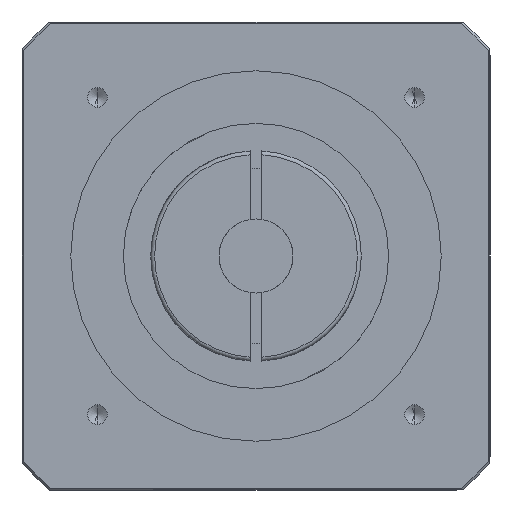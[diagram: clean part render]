
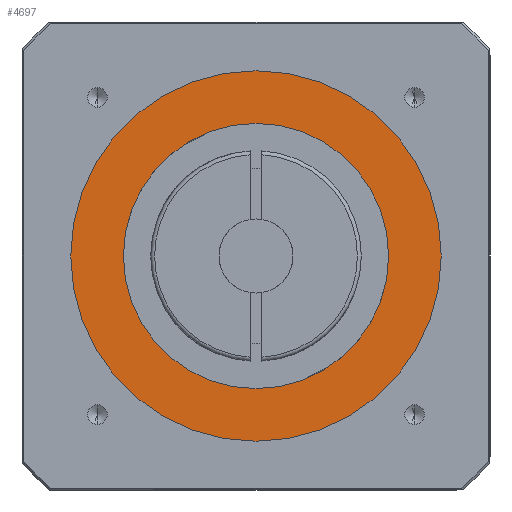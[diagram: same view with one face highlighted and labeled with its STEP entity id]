
A CAD part, front view. The second image highlights one B-rep face of the part: STEP entity #4697.
In plain terms, the highlighted planar face has unit normal (0, -1, 0).
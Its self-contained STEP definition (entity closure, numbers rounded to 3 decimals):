
#604 = EDGE_CURVE ( 'NONE', #2717, #2718, #5865, .T. ) ;
#644 = EDGE_CURVE ( 'NONE', #2763, #1800, #5913, .T. ) ;
#909 = CARTESIAN_POINT ( 'NONE',  ( 0., -71., 0. ) ) ;
#910 = DIRECTION ( 'NONE',  ( 0., 1., 0. ) ) ;
#911 = DIRECTION ( 'NONE',  ( 0., 0., -1. ) ) ;
#1119 = CARTESIAN_POINT ( 'NONE',  ( 0., -71., 0. ) ) ;
#1120 = DIRECTION ( 'NONE',  ( 0., -1., 0. ) ) ;
#1121 = DIRECTION ( 'NONE',  ( 0., 0., -1. ) ) ;
#1230 = DIRECTION ( 'NONE',  ( 0., 0., -1. ) ) ;
#1537 = CARTESIAN_POINT ( 'NONE',  ( 0., -71., 0. ) ) ;
#1538 = DIRECTION ( 'NONE',  ( 0., -1., 0. ) ) ;
#1539 = DIRECTION ( 'NONE',  ( 0., 0., -1. ) ) ;
#1800 = VERTEX_POINT ( 'NONE', #3383 ) ;
#2222 = ORIENTED_EDGE ( 'NONE', *, *, #604, .T. ) ;
#2224 = ORIENTED_EDGE ( 'NONE', *, *, #3010, .T. ) ;
#2225 = ORIENTED_EDGE ( 'NONE', *, *, #4362, .T. ) ;
#2227 = ORIENTED_EDGE ( 'NONE', *, *, #644, .T. ) ;
#2717 = VERTEX_POINT ( 'NONE', #3478 ) ;
#2718 = VERTEX_POINT ( 'NONE', #3479 ) ;
#2763 = VERTEX_POINT ( 'NONE', #3524 ) ;
#3010 = EDGE_CURVE ( 'NONE', #2718, #2717, #4815, .T. ) ;
#3097 = AXIS2_PLACEMENT_3D ( 'NONE', #909, #910, #911 ) ;
#3116 = AXIS2_PLACEMENT_3D ( 'NONE', #1119, #1120, #1121 ) ;
#3168 = AXIS2_PLACEMENT_3D ( 'NONE', #3893, #3894, #1230 ) ;
#3196 = AXIS2_PLACEMENT_3D ( 'NONE', #1537, #1538, #1539 ) ;
#3268 = AXIS2_PLACEMENT_3D ( 'NONE', #4124, #4129, #4130 ) ;
#3383 = CARTESIAN_POINT ( 'NONE',  ( 0., -71., 47.5 ) ) ;
#3478 = CARTESIAN_POINT ( 'NONE',  ( 0., -71., 34. ) ) ;
#3479 = CARTESIAN_POINT ( 'NONE',  ( 0., -71., -34. ) ) ;
#3524 = CARTESIAN_POINT ( 'NONE',  ( 0., -71., -47.5 ) ) ;
#3893 = CARTESIAN_POINT ( 'NONE',  ( 0., -71., 0. ) ) ;
#3894 = DIRECTION ( 'NONE',  ( 0., 1., 0. ) ) ;
#4124 = CARTESIAN_POINT ( 'NONE',  ( 0., -71., 0. ) ) ;
#4127 = PLANE ( 'NONE',  #3268 ) ;
#4129 = DIRECTION ( 'NONE',  ( 0., -1., 0. ) ) ;
#4130 = DIRECTION ( 'NONE',  ( 0., 0., -1. ) ) ;
#4362 = EDGE_CURVE ( 'NONE', #1800, #2763, #4890, .T. ) ;
#4697 = ADVANCED_FACE ( 'NONE', ( #5064, #5063 ), #4127, .T. ) ;
#4815 = CIRCLE ( 'NONE', #3168, 34. ) ;
#4890 = CIRCLE ( 'NONE', #3196, 47.5 ) ;
#5063 = FACE_BOUND ( 'NONE', #5467, .T. ) ;
#5064 = FACE_OUTER_BOUND ( 'NONE', #5451, .T. ) ;
#5451 = EDGE_LOOP ( 'NONE', ( #2227, #2225 ) ) ;
#5467 = EDGE_LOOP ( 'NONE', ( #2224, #2222 ) ) ;
#5865 = CIRCLE ( 'NONE', #3097, 34. ) ;
#5913 = CIRCLE ( 'NONE', #3116, 47.5 ) ;
